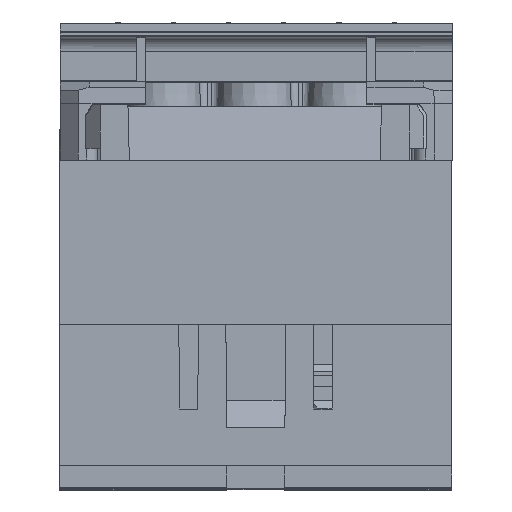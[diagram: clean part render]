
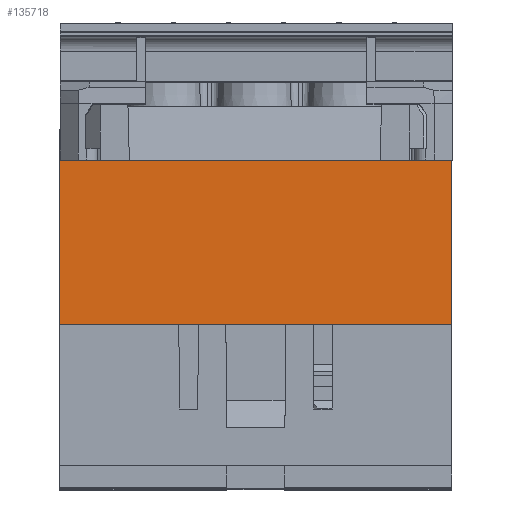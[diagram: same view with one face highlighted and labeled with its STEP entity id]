
A CAD part, top view. The second image highlights one B-rep face of the part: STEP entity #135718.
In plain terms, the highlighted planar face has unit normal (0, 0, 1).
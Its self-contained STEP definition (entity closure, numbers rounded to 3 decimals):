
#6970 = EDGE_CURVE ( 'NONE', #58764, #132887, #93198, .T. ) ;
#8222 = VERTEX_POINT ( 'NONE', #31070 ) ;
#10132 = DIRECTION ( 'NONE',  ( 1., 0., 0. ) ) ;
#11605 = CARTESIAN_POINT ( 'NONE',  ( 27., 18.5, 200.2 ) ) ;
#13888 = ORIENTED_EDGE ( 'NONE', *, *, #97504, .F. ) ;
#13978 = ORIENTED_EDGE ( 'NONE', *, *, #6970, .F. ) ;
#15694 = DIRECTION ( 'NONE',  ( 0., 1., 0. ) ) ;
#16830 = LINE ( 'NONE', #109231, #137064 ) ;
#19716 = VECTOR ( 'NONE', #132607, 1000. ) ;
#20306 = DIRECTION ( 'NONE',  ( -1., 0., 0. ) ) ;
#25220 = CARTESIAN_POINT ( 'NONE',  ( 27., 18.5, 200.2 ) ) ;
#31070 = CARTESIAN_POINT ( 'NONE',  ( 27., -4., 200.2 ) ) ;
#32857 = DIRECTION ( 'NONE',  ( 0., 0., 1. ) ) ;
#43693 = AXIS2_PLACEMENT_3D ( 'NONE', #144435, #32857, #10132 ) ;
#44650 = FACE_OUTER_BOUND ( 'NONE', #46814, .T. ) ;
#46814 = EDGE_LOOP ( 'NONE', ( #65850, #58768, #13978, #13888 ) ) ;
#54638 = CARTESIAN_POINT ( 'NONE',  ( -27., -4., 200.2 ) ) ;
#58764 = VERTEX_POINT ( 'NONE', #54638 ) ;
#58768 = ORIENTED_EDGE ( 'NONE', *, *, #105659, .T. ) ;
#60356 = DIRECTION ( 'NONE',  ( 0., -1., 0. ) ) ;
#65850 = ORIENTED_EDGE ( 'NONE', *, *, #111235, .F. ) ;
#73633 = VERTEX_POINT ( 'NONE', #11605 ) ;
#73824 = VECTOR ( 'NONE', #60356, 1000. ) ;
#93198 = LINE ( 'NONE', #93772, #146122 ) ;
#93772 = CARTESIAN_POINT ( 'NONE',  ( -27., 18.5, 200.2 ) ) ;
#97504 = EDGE_CURVE ( 'NONE', #8222, #58764, #16830, .T. ) ;
#105659 = EDGE_CURVE ( 'NONE', #73633, #132887, #109850, .T. ) ;
#109231 = CARTESIAN_POINT ( 'NONE',  ( 195.707, -4., 200.2 ) ) ;
#109850 = LINE ( 'NONE', #142945, #19716 ) ;
#111235 = EDGE_CURVE ( 'NONE', #73633, #8222, #114439, .T. ) ;
#114439 = LINE ( 'NONE', #25220, #73824 ) ;
#132607 = DIRECTION ( 'NONE',  ( -1., 0., 0. ) ) ;
#132887 = VERTEX_POINT ( 'NONE', #142086 ) ;
#135064 = PLANE ( 'NONE',  #43693 ) ;
#135718 = ADVANCED_FACE ( 'NONE', ( #44650 ), #135064, .T. ) ;
#137064 = VECTOR ( 'NONE', #20306, 1000. ) ;
#142086 = CARTESIAN_POINT ( 'NONE',  ( -27., 18.5, 200.2 ) ) ;
#142945 = CARTESIAN_POINT ( 'NONE',  ( 27., 18.5, 200.2 ) ) ;
#144435 = CARTESIAN_POINT ( 'NONE',  ( 195.707, 18.5, 200.2 ) ) ;
#146122 = VECTOR ( 'NONE', #15694, 1000. ) ;
